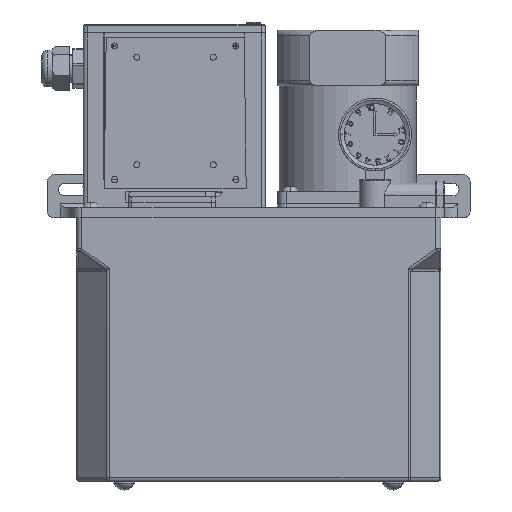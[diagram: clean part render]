
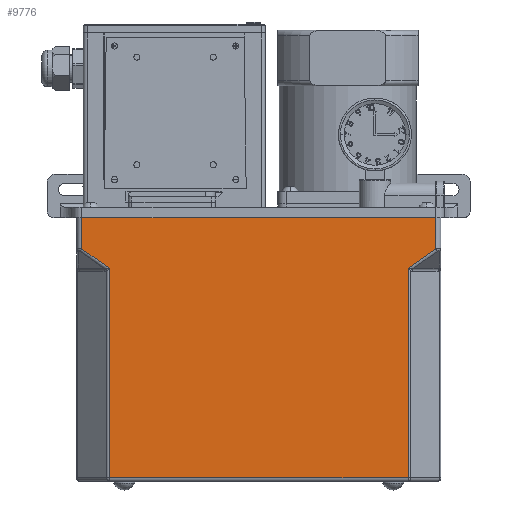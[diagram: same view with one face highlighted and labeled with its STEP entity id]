
A CAD part, front view. The second image highlights one B-rep face of the part: STEP entity #9776.
In plain terms, the highlighted planar face has unit normal (0, -1, 0).
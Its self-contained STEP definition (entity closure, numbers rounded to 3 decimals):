
#175 = VERTEX_POINT ( 'NONE', #6084 ) ;
#638 = VERTEX_POINT ( 'NONE', #3771 ) ;
#1392 = CARTESIAN_POINT ( 'NONE',  ( -33.593, 42.029, 250.201 ) ) ;
#1720 = CARTESIAN_POINT ( 'NONE',  ( 157.579, 42.029, 218.201 ) ) ;
#2292 = LINE ( 'NONE', #1720, #11707 ) ;
#3181 = FACE_OUTER_BOUND ( 'NONE', #34263, .T. ) ;
#3771 = CARTESIAN_POINT ( 'NONE',  ( -30.593, 42.029, 250.201 ) ) ;
#3854 = VERTEX_POINT ( 'NONE', #16217 ) ;
#3965 = ORIENTED_EDGE ( 'NONE', *, *, #7366, .F. ) ;
#5113 = CARTESIAN_POINT ( 'NONE',  ( 157.579, 42.029, 219.03 ) ) ;
#5287 = DIRECTION ( 'NONE',  ( 0., -1., 0. ) ) ;
#5627 = LINE ( 'NONE', #34946, #8615 ) ;
#5795 = CARTESIAN_POINT ( 'NONE',  ( -30.593, 42.029, 230.222 ) ) ;
#6016 = VECTOR ( 'NONE', #30781, 1000. ) ;
#6084 = CARTESIAN_POINT ( 'NONE',  ( -14.764, 42.029, 98.201 ) ) ;
#6907 = ORIENTED_EDGE ( 'NONE', *, *, #9654, .T. ) ;
#7366 = EDGE_CURVE ( 'NONE', #638, #14658, #25912, .T. ) ;
#8481 = CARTESIAN_POINT ( 'NONE',  ( 172.741, 42.029, 229.751 ) ) ;
#8615 = VECTOR ( 'NONE', #12983, 1000. ) ;
#9165 = VECTOR ( 'NONE', #18736, 1000. ) ;
#9247 = VECTOR ( 'NONE', #23270, 1000. ) ;
#9293 = VECTOR ( 'NONE', #24361, 1000. ) ;
#9422 = LINE ( 'NONE', #11849, #6016 ) ;
#9654 = EDGE_CURVE ( 'NONE', #12270, #15803, #2292, .T. ) ;
#9672 = ORIENTED_EDGE ( 'NONE', *, *, #32128, .T. ) ;
#9776 = ADVANCED_FACE ( 'NONE', ( #3181 ), #21669, .T. ) ;
#10838 = DIRECTION ( 'NONE',  ( 0.816, 0., 0.577 ) ) ;
#11707 = VECTOR ( 'NONE', #13256, 1000. ) ;
#11849 = CARTESIAN_POINT ( 'NONE',  ( -14.926, 42.029, 219.144 ) ) ;
#12270 = VERTEX_POINT ( 'NONE', #13519 ) ;
#12977 = CARTESIAN_POINT ( 'NONE',  ( 173.407, 42.029, 96.201 ) ) ;
#12983 = DIRECTION ( 'NONE',  ( 1., 0., 0. ) ) ;
#13256 = DIRECTION ( 'NONE',  ( 0., 0., 1. ) ) ;
#13519 = CARTESIAN_POINT ( 'NONE',  ( 157.579, 42.029, 98.201 ) ) ;
#14277 = VERTEX_POINT ( 'NONE', #5795 ) ;
#14658 = VERTEX_POINT ( 'NONE', #34488 ) ;
#14787 = VECTOR ( 'NONE', #10838, 1000. ) ;
#15803 = VERTEX_POINT ( 'NONE', #5113 ) ;
#16217 = CARTESIAN_POINT ( 'NONE',  ( 173.407, 42.029, 230.222 ) ) ;
#18140 = LINE ( 'NONE', #12977, #9165 ) ;
#18181 = EDGE_CURVE ( 'NONE', #14277, #24511, #9422, .T. ) ;
#18242 = VECTOR ( 'NONE', #18597, 1000. ) ;
#18252 = LINE ( 'NONE', #29610, #9293 ) ;
#18597 = DIRECTION ( 'NONE',  ( 0., 0., -1. ) ) ;
#18736 = DIRECTION ( 'NONE',  ( 0., 0., 1. ) ) ;
#20341 = EDGE_CURVE ( 'NONE', #638, #14277, #18252, .T. ) ;
#20983 = EDGE_CURVE ( 'NONE', #15803, #3854, #27217, .T. ) ;
#21669 = PLANE ( 'NONE',  #32011 ) ;
#21936 = ORIENTED_EDGE ( 'NONE', *, *, #20983, .T. ) ;
#23270 = DIRECTION ( 'NONE',  ( 1., 0., 0. ) ) ;
#24361 = DIRECTION ( 'NONE',  ( 0., 0., -1. ) ) ;
#24407 = DIRECTION ( 'NONE',  ( 1., 0., 0. ) ) ;
#24511 = VERTEX_POINT ( 'NONE', #31502 ) ;
#25547 = LINE ( 'NONE', #26960, #18242 ) ;
#25901 = EDGE_CURVE ( 'NONE', #3854, #14658, #18140, .T. ) ;
#25912 = LINE ( 'NONE', #1392, #9247 ) ;
#26583 = ORIENTED_EDGE ( 'NONE', *, *, #35336, .T. ) ;
#26960 = CARTESIAN_POINT ( 'NONE',  ( -14.764, 42.029, 98.201 ) ) ;
#27217 = LINE ( 'NONE', #8481, #14787 ) ;
#28715 = ORIENTED_EDGE ( 'NONE', *, *, #25901, .T. ) ;
#28723 = ORIENTED_EDGE ( 'NONE', *, *, #18181, .T. ) ;
#29610 = CARTESIAN_POINT ( 'NONE',  ( -30.593, 42.029, 96.201 ) ) ;
#30781 = DIRECTION ( 'NONE',  ( 0.816, 0., -0.577 ) ) ;
#31137 = ORIENTED_EDGE ( 'NONE', *, *, #20341, .T. ) ;
#31502 = CARTESIAN_POINT ( 'NONE',  ( -14.764, 42.029, 219.03 ) ) ;
#32011 = AXIS2_PLACEMENT_3D ( 'NONE', #35212, #5287, #24407 ) ;
#32128 = EDGE_CURVE ( 'NONE', #175, #12270, #5627, .T. ) ;
#34263 = EDGE_LOOP ( 'NONE', ( #6907, #21936, #28715, #3965, #31137, #28723, #26583, #9672 ) ) ;
#34488 = CARTESIAN_POINT ( 'NONE',  ( 173.407, 42.029, 250.201 ) ) ;
#34946 = CARTESIAN_POINT ( 'NONE',  ( 158.407, 42.029, 98.201 ) ) ;
#35212 = CARTESIAN_POINT ( 'NONE',  ( -33.593, 42.029, 96.201 ) ) ;
#35336 = EDGE_CURVE ( 'NONE', #24511, #175, #25547, .T. ) ;
